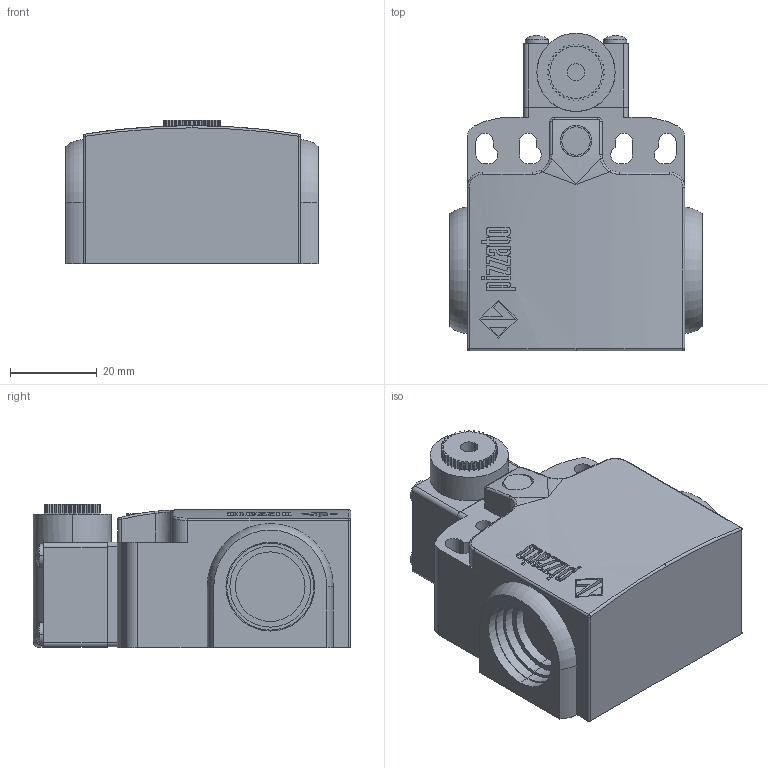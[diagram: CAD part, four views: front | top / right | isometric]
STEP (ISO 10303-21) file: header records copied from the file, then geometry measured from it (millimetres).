
FILE_DESCRIPTION (( 'STEP AP203' ), '1' );
FILE_NAME ('ZF_STEP_FX_x38.STEP', '2024-01-09T17:34:40', ( '' ), ( '' ), 'SwSTEP 2.0', 'SolidWorks 2020', '' );
FILE_SCHEMA (( 'CONFIG_CONTROL_DESIGN' ));
Length unit declared in the file: millimetre
Products named in the file (5): ZF_STEP_VF_TE38; Pizzato_Custodia_FX_3dweb; Pizzato_Supporto_TE38; ZF_STEP_FX_x38
Assembly tree (4 placements, depth 3):
  ZF_STEP_FX_x38
    Pizzato_Custodia_FX_3dweb
      Pizzato_Custodia_FX_3dweb
    ZF_STEP_VF_TE38
      Pizzato_Supporto_TE38
Bounding box: 58 x 73 x 32.9 mm (x, y, z)
Volume: 89444.7 mm3; surface area: 19501.3 mm2
Topology: 2 solids, 2 shells, 612 faces, 1655 edges, 1091 vertices
Faces by surface type: plane 307, cylinder 167, bspline 119, sphere 10, torus 9
Entity records: 23884 total; most frequent: CARTESIAN_POINT 8471, ORIENTED_EDGE 3302, DIRECTION 2789, EDGE_CURVE 1651, VERTEX_POINT 1091, LINE 995, VECTOR 995, AXIS2_PLACEMENT_3D 897
